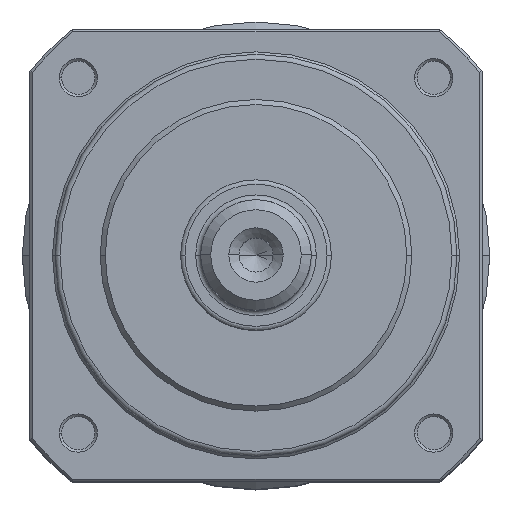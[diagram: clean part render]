
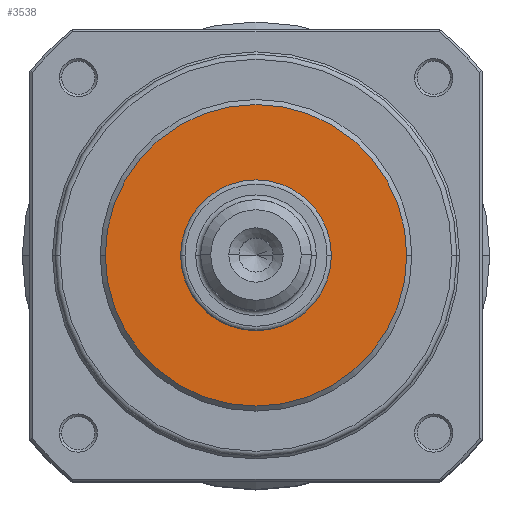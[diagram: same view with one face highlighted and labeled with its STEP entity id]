
A CAD part, top view. The second image highlights one B-rep face of the part: STEP entity #3538.
In plain terms, the highlighted planar face has unit normal (0, 0, 1).
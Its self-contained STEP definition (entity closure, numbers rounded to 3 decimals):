
#114 = VERTEX_POINT ( 'NONE', #259 ) ;
#230 = ORIENTED_EDGE ( 'NONE', *, *, #2858, .F. ) ;
#259 = CARTESIAN_POINT ( 'NONE',  ( -15., 0., 19. ) ) ;
#318 = CIRCLE ( 'NONE', #3894, 15. ) ;
#662 = EDGE_CURVE ( 'NONE', #1079, #2616, #3701, .T. ) ;
#805 = PLANE ( 'NONE',  #1518 ) ;
#829 = AXIS2_PLACEMENT_3D ( 'NONE', #1134, #3010, #3783 ) ;
#891 = CARTESIAN_POINT ( 'NONE',  ( 0., 0., 19. ) ) ;
#1079 = VERTEX_POINT ( 'NONE', #3784 ) ;
#1134 = CARTESIAN_POINT ( 'NONE',  ( 0., 0., 19. ) ) ;
#1194 = DIRECTION ( 'NONE',  ( 1., 0., 0. ) ) ;
#1232 = CIRCLE ( 'NONE', #2300, 30. ) ;
#1518 = AXIS2_PLACEMENT_3D ( 'NONE', #3807, #3061, #1194 ) ;
#1645 = FACE_BOUND ( 'NONE', #4036, .T. ) ;
#1725 = ORIENTED_EDGE ( 'NONE', *, *, #4754, .F. ) ;
#1733 = EDGE_LOOP ( 'NONE', ( #2156, #2596 ) ) ;
#2028 = CARTESIAN_POINT ( 'NONE',  ( 30., 0., 19. ) ) ;
#2156 = ORIENTED_EDGE ( 'NONE', *, *, #662, .T. ) ;
#2286 = DIRECTION ( 'NONE',  ( 1., 0., 0. ) ) ;
#2300 = AXIS2_PLACEMENT_3D ( 'NONE', #891, #4658, #2395 ) ;
#2336 = VERTEX_POINT ( 'NONE', #4568 ) ;
#2395 = DIRECTION ( 'NONE',  ( 1., 0., 0. ) ) ;
#2396 = DIRECTION ( 'NONE',  ( 0., 0., 1. ) ) ;
#2549 = EDGE_CURVE ( 'NONE', #2616, #1079, #1232, .T. ) ;
#2596 = ORIENTED_EDGE ( 'NONE', *, *, #2549, .T. ) ;
#2616 = VERTEX_POINT ( 'NONE', #2028 ) ;
#2674 = DIRECTION ( 'NONE',  ( 0., 0., 1. ) ) ;
#2858 = EDGE_CURVE ( 'NONE', #2336, #114, #3905, .T. ) ;
#2926 = FACE_OUTER_BOUND ( 'NONE', #1733, .T. ) ;
#3010 = DIRECTION ( 'NONE',  ( 0., 0., 1. ) ) ;
#3061 = DIRECTION ( 'NONE',  ( 0., 0., 1. ) ) ;
#3182 = DIRECTION ( 'NONE',  ( 1., 0., 0. ) ) ;
#3538 = ADVANCED_FACE ( 'NONE', ( #1645, #2926 ), #805, .T. ) ;
#3701 = CIRCLE ( 'NONE', #829, 30. ) ;
#3783 = DIRECTION ( 'NONE',  ( 1., 0., 0. ) ) ;
#3784 = CARTESIAN_POINT ( 'NONE',  ( -30., 0., 19. ) ) ;
#3807 = CARTESIAN_POINT ( 'NONE',  ( 0., 0., 19. ) ) ;
#3894 = AXIS2_PLACEMENT_3D ( 'NONE', #4674, #2396, #3182 ) ;
#3905 = CIRCLE ( 'NONE', #4732, 15. ) ;
#4036 = EDGE_LOOP ( 'NONE', ( #1725, #230 ) ) ;
#4524 = CARTESIAN_POINT ( 'NONE',  ( 0., 0., 19. ) ) ;
#4568 = CARTESIAN_POINT ( 'NONE',  ( 15., 0., 19. ) ) ;
#4658 = DIRECTION ( 'NONE',  ( 0., 0., 1. ) ) ;
#4674 = CARTESIAN_POINT ( 'NONE',  ( 0., 0., 19. ) ) ;
#4732 = AXIS2_PLACEMENT_3D ( 'NONE', #4524, #2674, #2286 ) ;
#4754 = EDGE_CURVE ( 'NONE', #114, #2336, #318, .T. ) ;
